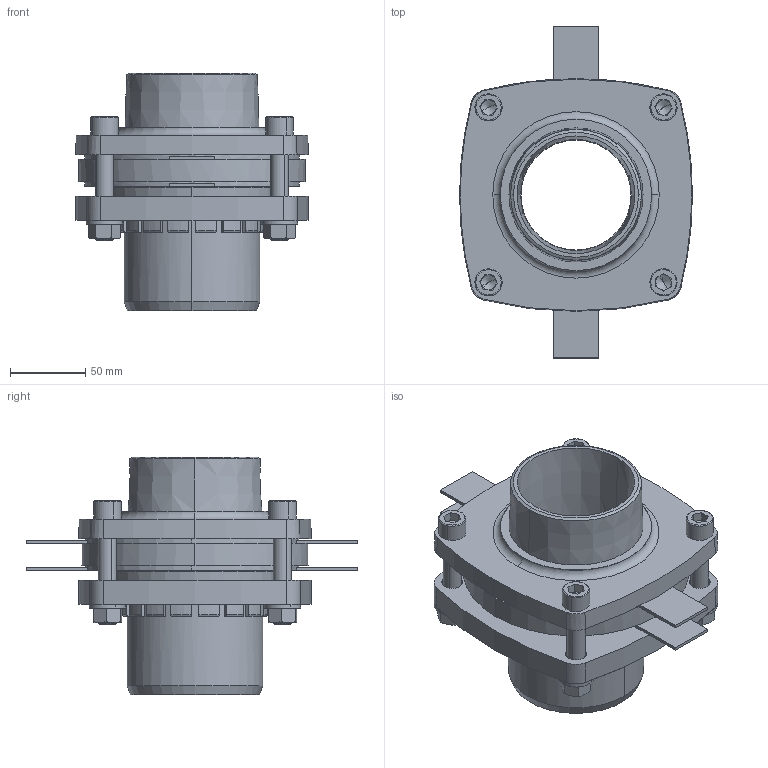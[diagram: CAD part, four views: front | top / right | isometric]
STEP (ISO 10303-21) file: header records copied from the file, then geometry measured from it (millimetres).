
FILE_DESCRIPTION (( 'STEP AP203' ), '1' );
FILE_NAME ('KP_C13-90M.step', '2011-08-08T12:02:53', ( '' ), ( '' ), 'SwSTEP 2.0', 'SolidWorks 2011', '' );
FILE_SCHEMA (( 'CONFIG_CONTROL_DESIGN' ));
Length unit declared in the file: millimetre
Products named in the file (1): KP_C13-90M
Bounding box: 154.3 x 220 x 157.5 mm (x, y, z)
Volume: 1015332.6 mm3; surface area: 210805.4 mm2
Topology: 1 solids, 2 shells, 504 faces, 1330 edges, 826 vertices
Faces by surface type: plane 232, cylinder 122, cone 110, torus 40
Entity records: 15907 total; most frequent: CARTESIAN_POINT 2925, DIRECTION 2890, ORIENTED_EDGE 2644, EDGE_CURVE 1322, AXIS2_PLACEMENT_3D 1111, VERTEX_POINT 826, VECTOR 668, LINE 668
